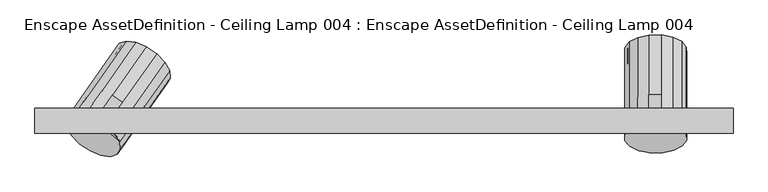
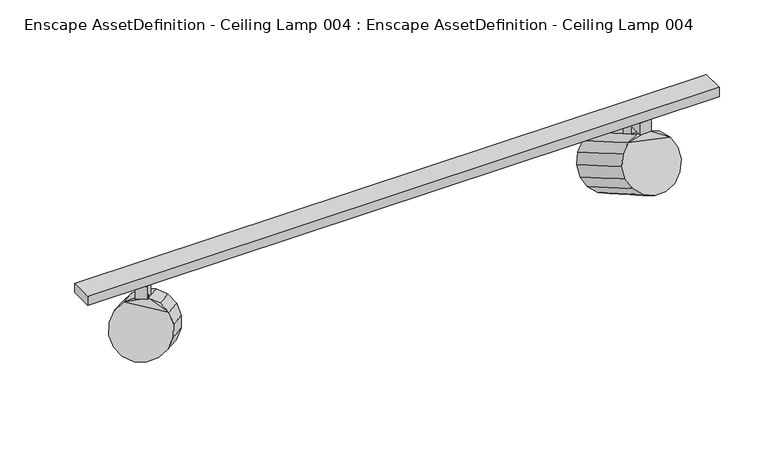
"""IFC4 building model written with IfcOpenShell, lengths in millimetres: geographic element geometry, Enscape AssetDefinition - Ceiling Lamp 004 : Enscape AssetDefinition - Ceiling Lamp 004."""

from ifc_helpers import new_model, si_unit, origin, place, context, project, spatial, triangles, source, transform, mapped, element, save


def enscape_assetdefinition_ceiling_lamp_004_enscape_05cd2c64(model_context):
    return source(origin(), model_context, "Body", "Tessellation", [
        triangles([(500.434534, -17.8484121, -0.3101642), (500.434534, 17.8484121, -0.3101642), (-500.434534, -17.8484121, -0.3101642), (-500.434534, -17.8484121, -15.6688803), (-500.434534, 17.8484121, -15.6688803), (-500.434534, 17.8484121, -0.3101642), (500.434534, 17.8484121, -15.6688803), (500.434534, -17.8484121, -15.6688803), (382.4631738, 61.8176793, -179.9790579), (423.48309, 70.8417742, -164.3478899), (412.6007964, 84.3856105, -185.2937407), (412.6007964, 65.1582321, -174.192111), (423.48309, 90.0691662, -175.4481571), (398.1962977, 61.9895256, -179.6814561), (415.3852921, 82.3974869, -188.7376984), (427.5766992, 88.7656393, -177.7073215), (429.1861939, 97.4027302, -162.7467703), (427.5766992, 3.3461405, -128.3912093), (433.9671885, 96.982198, -163.4774852), (433.5829823, 105.7953229, -148.2109752), (433.5829823, 20.375832, -98.894872), (433.9671885, 11.5626981, -114.159974), (433.9671885, -10.598674, -101.3650065), (415.3852921, -25.1819795, -126.6266277), (427.5766992, -18.8138339, -115.5962327), (433.9671885, -27.68425, -91.5012281), (427.5766992, -35.8994076, -105.7324543), (433.5829823, -18.8697183, -76.236117), (433.5829823, -1.7841426, -86.0999044), (426.4813445, 6.2843173, -72.1243449), (426.4813445, -10.8012586, -62.2605665), (397.3133211, -1.7031086, -46.1669585), (413.745058, -4.705554, -51.7010185), (413.745058, 12.380022, -61.5661912), (426.4813445, 28.445686, -84.9193261), (413.745058, 34.5413941, -74.3597689), (397.3133211, 15.5752711, -56.0321358), (426.4813445, 113.8637893, -134.2354292), (397.3133211, 123.1547466, -118.1432156), (413.745058, 119.9594838, -123.6772619), (422.5050974, 112.4722409, -136.6468827), (397.3133211, 37.7366433, -68.825709), (396.470858, 120.7642312, -122.2829339), (411.1365689, 117.9126883, -127.2231937), (379.6870714, 122.9633338, -118.4757353), (380.737734, 120.5923939, -122.5805175), (366.3332354, 117.423692, -128.0698626), (380.737734, 101.3650065, -111.4802775), (363.5487396, 119.4118155, -124.6259322), (351.3559519, 113.0450621, -135.6549284), (366.3332354, 98.1963045, -116.9682147), (355.4509418, 111.7401363, -137.9140746), (355.4509418, 92.5127579, -126.8138437), (344.9654626, 104.8285033, -149.8861454), (350.0901134, 96.5407007, -164.2417191), (349.7478378, 104.4065723, -150.6154523), (345.3510495, 96.0153784, -165.1512384), (351.3559519, 27.6255689, -86.338807), (344.9654626, -2.7509605, -87.7750656), (344.9654626, 19.4090124, -100.5700423), (363.5487396, 33.9937145, -75.3084256), (345.3510495, -28.651065, -93.1763893), (345.3510495, -11.5654902, -103.0401767), (352.4513065, -19.6339533, -117.0157227), (344.9654626, -19.8365367, -77.9098884), (363.5487396, -5.2532313, -52.6496706), (352.4513065, -36.7195269, -107.1519443), (351.3559519, 5.4641985, -73.5438395), (351.3559519, -11.6213769, -63.6800611), (363.5487396, 11.8323446, -62.513449), (415.3852921, -42.2675554, -116.7614413), (399.2469604, -45.8190737, -122.9116292), (381.6207107, -46.0104819, -123.2441579), (365.1875931, -25.7296545, -127.5752798), (365.1875931, -3.5696821, -140.3688485), (399.2469604, -28.7335, -132.7754075), (381.6207107, -28.924906, -133.1093352), (352.4513065, 2.5274189, -129.8106902), (365.1875931, -42.8152327, -117.7101025), (345.3510495, 10.5958796, -115.8351443), (352.4513065, 87.9455222, -179.1268025), (381.6207107, -6.7649322, -145.9029038), (365.1875931, 81.8498096, -189.6863505), (381.6207107, 78.6545649, -195.2204059), (356.4289344, 89.3384604, -176.7153399), (367.7960458, 83.8966141, -186.1404187), (399.2469604, 78.8473675, -194.8865055), (382.4631738, 81.0450622, -191.0793069), (398.1962977, 81.2169085, -190.7817052), (367.7960458, 64.6692358, -175.0387889), (356.4289344, 70.111073, -165.6150909), (350.0901134, 77.3133132, -153.1400893), (349.7478378, 85.1791848, -139.5151942), (396.470858, 101.5368528, -111.1826848), (411.1365689, 98.6852918, -116.121564), (429.1861939, 78.1753427, -151.6451406), (428.8425013, 86.0426223, -138.0202727), (422.5050974, 93.2448535, -125.5466336), (428.8425013, 105.2700007, -149.1219116), (399.2469604, -6.5721273, -145.5703842), (415.3852921, -3.0220051, -139.4215952), (379.6870714, 15.3824663, -56.364651), (379.6870714, -1.7031086, -46.5008771), (397.3133211, 15.5291654, -43.0220061), (397.3133211, -9.399931, -43.0764949), (397.3133211, 15.4788699, -22.4603569), (379.6870714, 37.5438362, -69.1596276), (379.6870714, 37.6402397, -22.6280156), (397.3133211, 37.7827478, -42.8557462), (379.6870714, 37.5899407, -43.1882659), (379.6870714, 15.3363618, -43.3545257), (379.6870714, 15.2874617, -22.7942732), (397.3133211, 37.8330468, -22.2940993), (389.3384809, 3.3894518, -22.6154392), (379.6870714, -9.5927364, -43.4090146), (379.6870714, -9.6430319, -22.848762), (386.4114793, 3.3894518, -15.7135871), (386.4114793, 3.3894518, -22.6713247), (386.4114793, -1.3063221, -22.6936798), (389.3384809, -1.3063221, -15.6800579), (386.4114793, -1.3063221, -15.7359411), (397.3133211, -9.4502277, -22.5148457), (389.3384809, -1.3063221, -22.6377943), (389.3384809, 3.3894518, -15.6577027), (-360.3800377, 45.7268646, -179.6814561), (-373.3650009, 54.6112514, -179.9790579), (-325.7101336, 41.2113199, -151.6451406), (-346.7621552, 40.0614718, -174.192111), (-335.734558, 55.8113917, -185.2937407), (-320.9542465, 50.808245, -177.7073215), (-323.5599014, 54.2256418, -175.4481571), (-334.5889157, 38.4757265, -164.3478899), (-314.6811193, 56.9612352, -162.7467703), (-306.2661532, 61.3133133, -148.2109752), (-311.0066342, 53.8735603, -163.4774852), (-369.9476586, -19.1617187, -128.3912093), (-383.5878508, -17.3859596, -139.4215952), (-360.0014271, -16.0978012, -114.159974), (-382.5120807, -48.2459014, -91.5012281), (-367.9720888, -26.8110384, -86.0999044), (-372.7125698, -34.2507891, -101.3650065), (-382.658765, -37.3161021, -115.5962327), (-377.7715997, -40.806153, -76.236117), (-392.4582759, -51.3112121, -105.7324543), (-369.1610424, -16.1271395, -72.1243449), (-378.9605533, -30.1236496, -62.2605665), (-355.2609097, -8.6566545, -98.894872), (-356.4498997, 2.0258471, -84.9193261), (-376.0964112, -3.8295497, -61.5661912), (-385.8959221, -17.8246615, -51.7010185), (-397.6346678, -5.9392246, -46.1669585), (-363.3853048, 14.3248353, -74.3597689), (-314.3919291, 84.2948002, -123.6772619), (-326.0189083, 96.3381149, -118.1432156), (-340.5686743, 106.2913046, -118.4757353), (-375.0136648, 26.36675, -68.825709), (-389.5633945, 36.3199488, -69.1596276), (-341.0674447, 103.7471285, -122.5805175), (-328.0810644, 94.8627326, -122.2829339), (-328.7307341, 68.3646589, -116.121564), (-355.8239568, 112.6385008, -124.6259322), (-339.110006, 79.1128218, -111.1826848), (-352.0964227, 87.9958098, -111.4802775), (-404.8187496, 42.6671358, -75.3084256), (-369.4642216, 114.4156452, -135.6549284), (-354.6839101, 109.4125167, -128.0698626), (-365.7129244, 93.6625969, -116.9682147), (-377.8875446, 95.2483468, -126.8138437), (-366.8585667, 110.9982666, -137.9140746), (-379.4118339, 111.3503436, -149.8861454), (-418.4590144, 44.4442894, -86.338807), (-428.4052096, 41.3789741, -100.5700423), (-384.1523149, 103.9105906, -165.1512384), (-379.9678682, 101.6220856, -164.2417191), (-375.7373852, 108.2626687, -150.6154523), (-433.1456543, 33.9392234, -115.8351443), (-445.8568334, 15.7862378, -103.0401767), (-450.9172076, 9.2308773, -77.9098884), (-455.6563442, 1.7897311, -93.1763893), (-441.116316, 23.2259874, -87.7750656), (-431.1701208, 26.2913026, -73.5438395), (-417.5299287, 24.5141491, -62.513449), (-440.9696317, 12.294796, -63.6800611), (-427.3294032, 10.5190368, -52.6496706), (-412.074048, 4.1704508, -46.5008771), (-406.0985044, -49.5340586, -116.7614413), (-396.2990298, -35.5389463, -126.6266277), (-421.3552402, -43.1868716, -122.9116292), (-411.5543487, -29.1903603, -132.7754075), (-447.5319855, -21.191757, -117.7101025), (-435.9036255, -33.2336728, -123.2441579), (-426.1041146, -19.2385604, -133.1093352), (-444.6678798, 5.1037378, -117.0157227), (-437.7324746, -7.1952503, -127.5752798), (-454.4687714, -8.89277, -107.1519443), (-431.9581178, 23.2567245, -129.8106902), (-425.0213319, 10.9577375, -140.3688485), (-376.0265754, 80.9290991, -189.6863505), (-382.9633613, 93.2280849, -179.1268025), (-378.9074678, 92.0866211, -176.7153399), (-372.7153676, 81.1093297, -186.1404187), (-362.3374037, 70.3611576, -191.0793069), (-364.3995961, 68.8857889, -195.2204059), (-383.7443456, 65.359419, -175.0387889), (-349.3510597, 61.4767753, -190.7817052), (-389.9350287, 76.3367104, -165.6150909), (-386.7649461, 92.5127579, -139.5151942), (-390.9968825, 85.8721658, -153.1400893), (-322.5400146, 57.3873583, -125.5466336), (-321.4795415, 47.8519075, -138.0202727), (-310.4505999, 63.6018228, -149.1219116), (-317.7017198, 84.1145696, -127.2231937), (-307.4551068, 71.9972088, -134.2354292), (-311.5110003, 73.1372691, -136.6468827), (-334.5930943, 52.5854031, -188.7376984), (-349.8498665, 58.9339936, -194.8865055), (-413.3929719, -1.0841775, -145.9029038), (-398.8431696, -11.0373736, -145.5703842), (-387.7247712, 8.2137621, -56.0321358), (-389.5368699, 36.3576668, -43.1882659), (-402.2745735, 18.1669598, -56.364651), (-387.7513321, 8.1760402, -43.0220061), (-387.77931, 8.1341255, -22.4603569), (-402.0495872, -12.2458959, -43.0764949), (-374.9871039, 26.4044725, -42.8557462), (-389.5075476, 36.3981871, -22.6280156), (-374.9577816, 26.4449883, -22.2940993), (-402.3290397, 18.0873214, -22.7942732), (-403.6451657, 4.4834092, -22.6713247), (-402.3010981, 18.1278395, -43.3545257), (-416.5993896, -2.2927001, -43.4090146), (-416.6287119, -2.3332171, -22.848762), (-403.6451657, 4.4834092, -15.7135871), (-403.9399515, -1.0408664, -22.6377943), (-406.3374069, 0.637094, -22.6936798), (-403.9399515, -1.0408664, -15.6800579), (-406.3374069, 0.637094, -15.7359411), (-402.0789823, -12.2864139, -22.5148457), (-401.2476377, 2.8054491, -22.6154392), (-401.2476377, 2.8054491, -15.6577027)], [[233, 240, 239], [240, 233, 237], [237, 236, 240], [240, 236, 234], [234, 239, 240], [239, 234, 238], [224, 231, 230], [231, 224, 238], [232, 238, 234], [238, 232, 231], [236, 237, 235], [235, 234, 236], [234, 235, 232], [237, 233, 229], [229, 235, 237], [239, 229, 233], [235, 229, 228], [228, 232, 235], [231, 232, 228], [228, 230, 231], [238, 223, 239], [229, 239, 223], [223, 228, 229], [228, 223, 227], [230, 228, 226], [227, 226, 228], [226, 220, 230], [225, 220, 226], [226, 227, 225], [157, 220, 225], [238, 224, 222], [222, 223, 238], [230, 222, 224], [222, 225, 227], [227, 223, 222], [225, 222, 219], [222, 230, 221], [221, 219, 222], [220, 157, 221], [221, 230, 220], [219, 221, 185], [218, 137, 187], [187, 189, 218], [217, 218, 189], [216, 218, 217], [218, 216, 215], [215, 137, 218], [215, 216, 205], [147, 134, 213], [211, 214, 213], [213, 134, 211], [214, 211, 210], [210, 209, 214], [209, 160, 212], [212, 214, 209], [127, 210, 211], [209, 210, 127], [162, 209, 127], [162, 160, 209], [126, 207, 127], [207, 162, 127], [207, 208, 174], [126, 206, 207], [206, 208, 207], [126, 204, 206], [204, 126, 202], [205, 202, 126], [202, 205, 216], [216, 203, 202], [217, 203, 216], [206, 204, 201], [202, 201, 204], [201, 202, 203], [208, 206, 200], [200, 174, 208], [201, 200, 206], [174, 200, 199], [200, 201, 198], [198, 199, 200], [203, 198, 201], [197, 198, 203], [203, 217, 197], [196, 199, 198], [198, 197, 196], [199, 196, 176], [176, 196, 193], [190, 195, 193], [193, 194, 190], [196, 197, 194], [194, 193, 196], [189, 192, 217], [197, 217, 192], [192, 194, 197], [194, 192, 191], [191, 190, 194], [195, 190, 191], [192, 189, 188], [188, 191, 192], [144, 186, 187], [189, 187, 186], [186, 188, 189], [195, 191, 186], [191, 188, 186], [184, 185, 221], [184, 195, 186], [183, 184, 182], [221, 182, 184], [182, 221, 157], [157, 164, 182], [182, 181, 183], [181, 182, 164], [178, 183, 181], [184, 178, 195], [184, 183, 178], [178, 179, 195], [177, 193, 195], [195, 179, 177], [193, 177, 176], [180, 177, 179], [179, 178, 180], [181, 180, 178], [180, 181, 171], [164, 171, 181], [172, 176, 177], [177, 180, 172], [171, 172, 180], [199, 173, 174], [176, 173, 199], [173, 176, 172], [168, 207, 175], [174, 175, 207], [175, 174, 173], [173, 170, 175], [172, 170, 173], [170, 172, 171], [171, 165, 170], [165, 171, 164], [175, 169, 168], [169, 175, 170], [170, 165, 169], [167, 168, 169], [207, 167, 162], [207, 168, 167], [167, 163, 162], [163, 167, 166], [169, 166, 167], [166, 169, 165], [165, 161, 166], [164, 161, 165], [161, 164, 157], [162, 163, 158], [166, 158, 163], [158, 166, 161], [160, 162, 159], [159, 212, 160], [158, 159, 162], [159, 158, 155], [161, 155, 158], [157, 155, 161], [225, 156, 157], [219, 156, 225], [155, 157, 156], [212, 159, 154], [155, 154, 159], [156, 154, 155], [214, 212, 153], [153, 213, 214], [154, 153, 212], [152, 156, 219], [152, 153, 154], [154, 156, 152], [148, 213, 153], [153, 152, 148], [213, 148, 147], [219, 149, 152], [148, 152, 149], [185, 151, 219], [149, 219, 151], [151, 185, 184], [151, 150, 149], [145, 149, 150], [149, 145, 148], [147, 148, 145], [150, 146, 145], [146, 184, 186], [146, 151, 184], [146, 150, 151], [140, 145, 146], [145, 140, 147], [146, 143, 140], [144, 139, 186], [139, 146, 186], [139, 143, 146], [139, 144, 142], [187, 142, 144], [142, 187, 137], [142, 141, 139], [141, 140, 143], [143, 139, 141], [138, 147, 140], [140, 141, 138], [134, 147, 138], [136, 138, 141], [141, 142, 136], [137, 136, 142], [137, 215, 130], [130, 136, 137], [136, 130, 135], [135, 138, 136], [138, 135, 134], [211, 133, 127], [133, 211, 134], [134, 135, 133], [132, 127, 133], [133, 131, 132], [131, 133, 135], [135, 130, 131], [205, 129, 215], [129, 131, 130], [130, 215, 129], [126, 125, 205], [129, 205, 125], [125, 128, 129], [128, 132, 131], [131, 129, 128], [132, 128, 127], [128, 126, 127], [128, 125, 126], [117, 124, 114], [124, 117, 121], [121, 120, 124], [124, 120, 123], [123, 114, 124], [114, 123, 122], [105, 115, 111], [115, 105, 122], [116, 122, 123], [122, 116, 115], [120, 121, 119], [119, 123, 120], [123, 119, 116], [121, 117, 118], [118, 119, 121], [114, 118, 117], [119, 118, 112], [112, 116, 119], [115, 116, 112], [112, 111, 115], [122, 106, 114], [118, 114, 106], [106, 112, 118], [112, 106, 113], [111, 112, 108], [113, 108, 112], [108, 110, 111], [109, 110, 108], [108, 113, 109], [107, 110, 109], [122, 105, 104], [104, 106, 122], [111, 104, 105], [104, 109, 113], [113, 106, 104], [109, 104, 37], [104, 111, 102], [102, 37, 104], [110, 107, 102], [102, 111, 110], [37, 102, 103], [100, 101, 24], [24, 76, 100], [82, 100, 76], [87, 100, 82], [100, 87, 15], [15, 101, 100], [15, 87, 89], [21, 20, 38], [99, 41, 38], [38, 20, 99], [41, 99, 97], [97, 98, 41], [98, 95, 44], [44, 41, 98], [96, 97, 99], [98, 97, 96], [94, 98, 96], [94, 95, 98], [9, 93, 96], [93, 94, 96], [93, 92, 55], [9, 91, 93], [91, 92, 93], [9, 90, 91], [90, 9, 88], [89, 88, 9], [88, 89, 87], [87, 84, 88], [82, 84, 87], [91, 90, 86], [88, 86, 90], [86, 88, 84], [92, 91, 85], [85, 55, 92], [86, 85, 91], [55, 85, 81], [85, 86, 83], [83, 81, 85], [84, 83, 86], [75, 83, 84], [84, 82, 75], [78, 81, 83], [83, 75, 78], [81, 78, 80], [80, 78, 64], [79, 67, 64], [64, 74, 79], [78, 75, 74], [74, 64, 78], [76, 77, 82], [75, 82, 77], [77, 74, 75], [74, 77, 73], [73, 79, 74], [67, 79, 73], [77, 76, 72], [72, 73, 77], [27, 71, 24], [76, 24, 71], [71, 72, 76], [67, 73, 71], [73, 72, 71], [66, 103, 102], [66, 67, 71], [69, 66, 70], [102, 70, 66], [70, 102, 107], [107, 61, 70], [70, 68, 69], [68, 70, 61], [65, 69, 68], [66, 65, 67], [66, 69, 65], [65, 62, 67], [63, 64, 67], [67, 62, 63], [64, 63, 80], [59, 63, 62], [62, 65, 59], [68, 59, 65], [59, 68, 58], [61, 58, 68], [60, 80, 63], [63, 59, 60], [58, 60, 59], [81, 57, 55], [80, 57, 81], [57, 80, 60], [53, 93, 56], [55, 56, 93], [56, 55, 57], [57, 54, 56], [60, 54, 57], [54, 60, 58], [58, 50, 54], [50, 58, 61], [56, 52, 53], [52, 56, 54], [54, 50, 52], [51, 53, 52], [93, 51, 94], [93, 53, 51], [51, 48, 94], [48, 51, 47], [52, 47, 51], [47, 52, 50], [50, 49, 47], [61, 49, 50], [49, 61, 107], [94, 48, 46], [47, 46, 48], [46, 47, 49], [95, 94, 43], [43, 44, 95], [46, 43, 94], [43, 46, 45], [49, 45, 46], [107, 45, 49], [109, 42, 107], [37, 42, 109], [45, 107, 42], [44, 43, 39], [45, 39, 43], [42, 39, 45], [41, 44, 40], [40, 38, 41], [39, 40, 44], [36, 42, 37], [36, 40, 39], [39, 42, 36], [35, 38, 40], [40, 36, 35], [38, 35, 21], [37, 34, 36], [35, 36, 34], [103, 32, 37], [34, 37, 32], [32, 103, 66], [32, 33, 34], [30, 34, 33], [34, 30, 35], [21, 35, 30], [33, 31, 30], [31, 66, 71], [31, 32, 66], [31, 33, 32], [29, 30, 31], [30, 29, 21], [31, 28, 29], [27, 26, 71], [26, 31, 71], [26, 28, 31], [26, 27, 25], [24, 25, 27], [25, 24, 101], [25, 23, 26], [23, 29, 28], [28, 26, 23], [22, 21, 29], [29, 23, 22], [20, 21, 22], [18, 22, 23], [23, 25, 18], [101, 18, 25], [101, 15, 16], [16, 18, 101], [18, 16, 19], [19, 22, 18], [22, 19, 20], [99, 17, 96], [17, 99, 20], [20, 19, 17], [10, 96, 17], [17, 13, 10], [13, 17, 19], [19, 16, 13], [89, 11, 15], [11, 13, 16], [16, 15, 11], [9, 14, 89], [11, 89, 14], [14, 12, 11], [12, 10, 13], [13, 11, 12], [10, 12, 96], [12, 9, 96], [12, 14, 9], [7, 8, 4], [4, 5, 7], [6, 5, 4], [5, 6, 2], [2, 7, 5], [7, 2, 1], [1, 8, 7], [4, 3, 6], [8, 1, 3], [3, 4, 8], [2, 6, 3], [3, 1, 2]]),
    ])


if __name__ == "__main__":
    model = new_model("IFC4")
    model_context = context("Model", 3, world=origin())
    ifc_project = project(units=[si_unit("LENGTHUNIT", "METRE", prefix="MILLI")], contexts=[model_context])
    site = spatial("IfcSite", under=ifc_project)
    building = spatial("IfcBuilding", under=site)
    placement = place(None, origin())
    enscape_assetdefinition_ceiling_lamp_004_enscape_shape = enscape_assetdefinition_ceiling_lamp_004_enscape_05cd2c64(model_context)
    element("IfcGeographicElement", 1, ObjectType="Enscape AssetDefinition - Ceiling Lamp 004 : Enscape AssetDefinition - Ceiling Lamp 004", at=placement, inside=building, context=model_context, shape_type="MappedRepresentation", body=[
        mapped(enscape_assetdefinition_ceiling_lamp_004_enscape_shape, transform((0.0, 0.0, 0.0), x_axis=(1.0, 0.0, 0.0), y_axis=(0.0, 1.0, 0.0), z_axis=(0.0, 0.0, 1.0))),
    ])
    save(model, "model.ifc")
